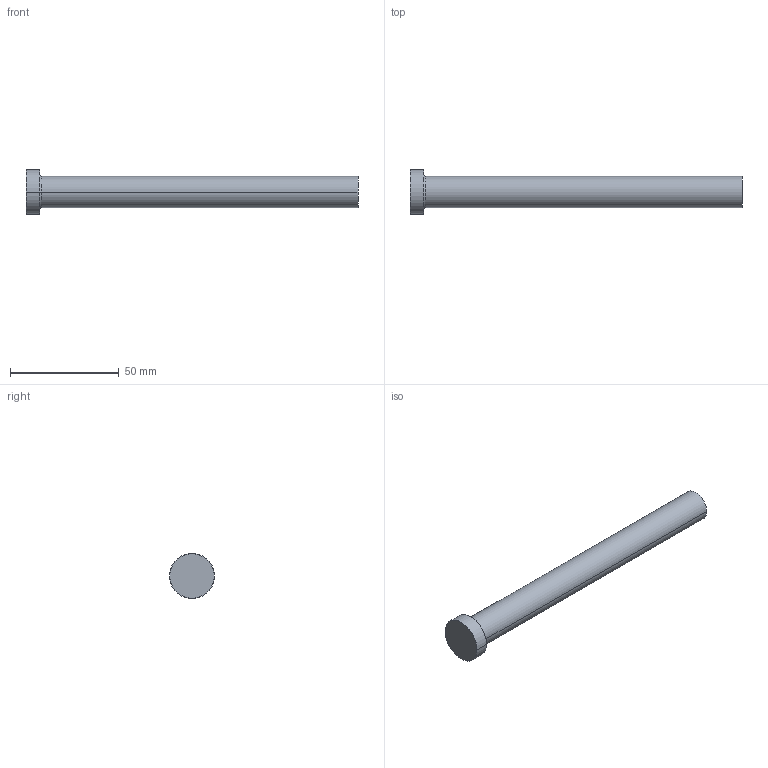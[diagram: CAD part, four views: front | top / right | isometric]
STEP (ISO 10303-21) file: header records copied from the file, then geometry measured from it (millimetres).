
FILE_DESCRIPTION (( 'STEP AP214' ), '1' );
FILE_NAME ('P35-6.STEP', '2020-03-12T11:58:36', ( '' ), ( '' ), 'SwSTEP 2.0', 'SolidWorks 2018', '' );
FILE_SCHEMA (( 'AUTOMOTIVE_DESIGN' ));
Length unit declared in the file: inch
Products named in the file (1): P35-6
Bounding box: 152.4 x 20.64 x 20.64 mm (x, y, z)
Volume: 25503.1 mm3; surface area: 7608.3 mm2
Topology: 1 solids, 1 shells, 13 faces, 24 edges, 14 vertices
Faces by surface type: cone 4, cylinder 4, plane 3, torus 2
Entity records: 366 total; most frequent: DIRECTION 68, CARTESIAN_POINT 52, ORIENTED_EDGE 48, AXIS2_PLACEMENT_3D 30, EDGE_CURVE 24, CIRCLE 16, VERTEX_POINT 14, EDGE_LOOP 14
